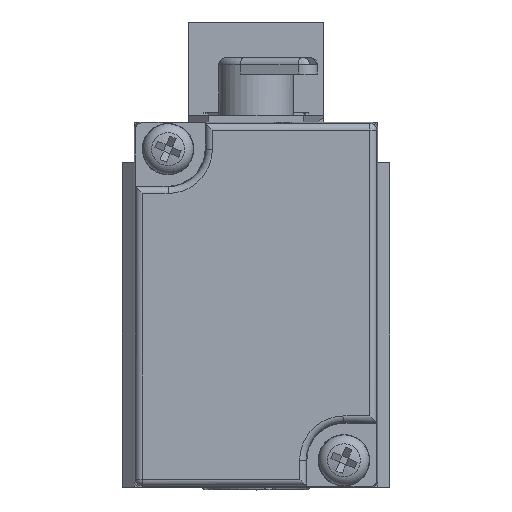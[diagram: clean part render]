
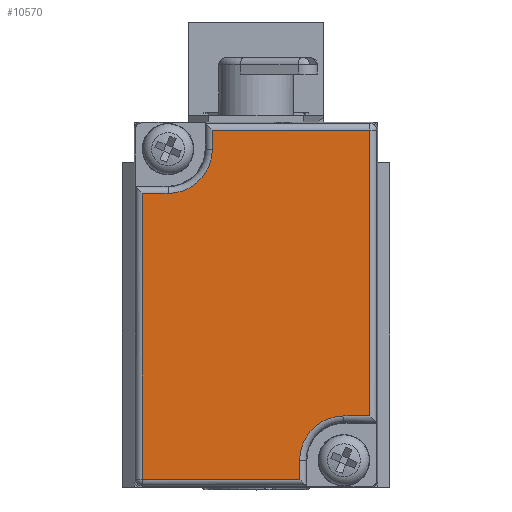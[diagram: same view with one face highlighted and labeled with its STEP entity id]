
A CAD part, left-side view. The second image highlights one B-rep face of the part: STEP entity #10570.
In plain terms, the highlighted planar face has unit normal (-1, 0, 0).
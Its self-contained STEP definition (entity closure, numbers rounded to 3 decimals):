
#9960=CARTESIAN_POINT('',(-37.5,8.41,-12.91));
#9961=VERTEX_POINT('',#9960);
#9977=CARTESIAN_POINT('',(-37.5,-3.225,-12.91));
#9978=VERTEX_POINT('',#9977);
#9986=CARTESIAN_POINT('',(-37.5,8.41,-12.91));
#9987=DIRECTION('',(0.,-1.,0.));
#9988=VECTOR('',#9987,11.636);
#9989=LINE('',#9986,#9988);
#9990=EDGE_CURVE('',#9961,#9978,#9989,.T.);
#10009=CARTESIAN_POINT('',(-37.5,-3.225,-11.5));
#10010=VERTEX_POINT('',#10009);
#10018=CARTESIAN_POINT('',(-37.5,-3.225,-12.91));
#10019=DIRECTION('',(0.,0.,1.));
#10020=VECTOR('',#10019,1.41);
#10021=LINE('',#10018,#10020);
#10022=EDGE_CURVE('',#9978,#10010,#10021,.T.);
#10067=CARTESIAN_POINT('',(-37.5,-6.5,-8.225));
#10068=VERTEX_POINT('',#10067);
#10076=CARTESIAN_POINT('',(-37.5,-6.5,-11.5));
#10077=DIRECTION('',(-1.0,0.,0.));
#10078=DIRECTION('',(0.,-1.,0.));
#10079=AXIS2_PLACEMENT_3D('',#10076,#10077,#10078);
#10080=CIRCLE('',#10079,3.275);
#10081=EDGE_CURVE('',#10010,#10068,#10080,.F.);
#10092=CARTESIAN_POINT('',(-37.5,8.41,8.225));
#10093=VERTEX_POINT('',#10092);
#10094=CARTESIAN_POINT('',(-37.5,8.41,8.225));
#10095=DIRECTION('',(0.,0.,-1.));
#10096=VECTOR('',#10095,21.136);
#10097=LINE('',#10094,#10096);
#10098=EDGE_CURVE('',#10093,#9961,#10097,.T.);
#10132=CARTESIAN_POINT('',(-37.5,-8.41,-8.225));
#10133=VERTEX_POINT('',#10132);
#10141=CARTESIAN_POINT('',(-37.5,-6.5,-8.225));
#10142=DIRECTION('',(0.,-1.,0.));
#10143=VECTOR('',#10142,1.91);
#10144=LINE('',#10141,#10143);
#10145=EDGE_CURVE('',#10068,#10133,#10144,.T.);
#10156=CARTESIAN_POINT('',(-37.5,6.5,8.225));
#10157=VERTEX_POINT('',#10156);
#10158=CARTESIAN_POINT('',(-37.5,6.5,8.225));
#10159=DIRECTION('',(0.,1.,0.));
#10160=VECTOR('',#10159,1.91);
#10161=LINE('',#10158,#10160);
#10162=EDGE_CURVE('',#10157,#10093,#10161,.T.);
#10196=CARTESIAN_POINT('',(-37.5,-8.41,12.91));
#10197=VERTEX_POINT('',#10196);
#10205=CARTESIAN_POINT('',(-37.5,-8.41,-8.225));
#10206=DIRECTION('',(0.,0.,1.));
#10207=VECTOR('',#10206,21.136);
#10208=LINE('',#10205,#10207);
#10209=EDGE_CURVE('',#10133,#10197,#10208,.T.);
#10220=CARTESIAN_POINT('',(-37.5,3.225,11.5));
#10221=VERTEX_POINT('',#10220);
#10222=CARTESIAN_POINT('',(-37.5,6.5,11.5));
#10223=DIRECTION('',(-1.0,0.,0.));
#10224=DIRECTION('',(0.,-1.,0.));
#10225=AXIS2_PLACEMENT_3D('',#10222,#10223,#10224);
#10226=CIRCLE('',#10225,3.275);
#10227=EDGE_CURVE('',#10221,#10157,#10226,.F.);
#10279=CARTESIAN_POINT('',(-37.5,3.225,12.91));
#10280=VERTEX_POINT('',#10279);
#10281=CARTESIAN_POINT('',(-37.5,3.225,12.91));
#10282=DIRECTION('',(0.,0.,-1.));
#10283=VECTOR('',#10282,1.41);
#10284=LINE('',#10281,#10283);
#10285=EDGE_CURVE('',#10280,#10221,#10284,.T.);
#10318=CARTESIAN_POINT('',(-37.5,-8.41,12.91));
#10319=DIRECTION('',(0.,1.,0.));
#10320=VECTOR('',#10319,11.636);
#10321=LINE('',#10318,#10320);
#10322=EDGE_CURVE('',#10197,#10280,#10321,.T.);
#10553=CARTESIAN_POINT('',(-37.5,0.,0.));
#10554=DIRECTION('',(-1.0,0.,0.));
#10555=DIRECTION('',(0.,-1.,0.));
#10556=AXIS2_PLACEMENT_3D('',#10553,#10554,#10555);
#10557=PLANE('',#10556);
#10558=ORIENTED_EDGE('',*,*,#10209,.T.);
#10559=ORIENTED_EDGE('',*,*,#10322,.T.);
#10560=ORIENTED_EDGE('',*,*,#10285,.T.);
#10561=ORIENTED_EDGE('',*,*,#10227,.T.);
#10562=ORIENTED_EDGE('',*,*,#10162,.T.);
#10563=ORIENTED_EDGE('',*,*,#10098,.T.);
#10564=ORIENTED_EDGE('',*,*,#9990,.T.);
#10565=ORIENTED_EDGE('',*,*,#10022,.T.);
#10566=ORIENTED_EDGE('',*,*,#10081,.T.);
#10567=ORIENTED_EDGE('',*,*,#10145,.T.);
#10568=EDGE_LOOP('',(#10558,#10559,#10560,#10561,#10562,#10563,#10564,#10565,#10566,#10567));
#10569=FACE_OUTER_BOUND('',#10568,.T.);
#10570=ADVANCED_FACE('',(#10569),#10557,.T.);
